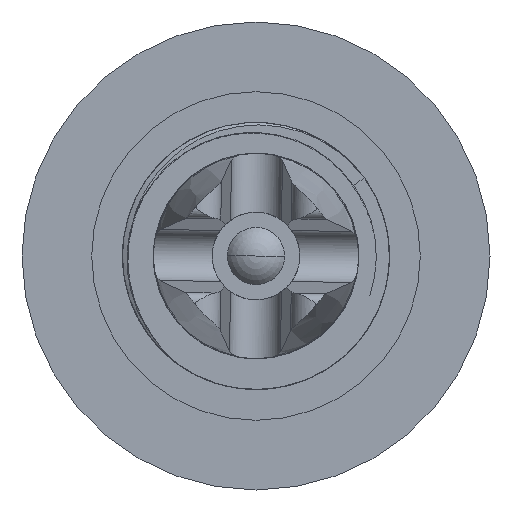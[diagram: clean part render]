
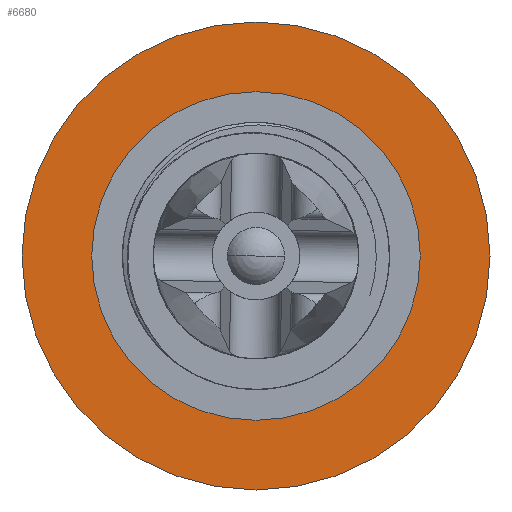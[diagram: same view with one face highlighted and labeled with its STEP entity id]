
A CAD part, front view. The second image highlights one B-rep face of the part: STEP entity #6680.
In plain terms, the highlighted planar face has unit normal (0, -1, 0).
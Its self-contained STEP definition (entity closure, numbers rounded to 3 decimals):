
#1682=CARTESIAN_POINT('',(0.,0.,0.));
#1683=DIRECTION('',(0.,-1.,0.));
#1684=DIRECTION('',(0.,0.,1.));
#1685=AXIS2_PLACEMENT_3D('',#1682,#1683,#1684);
#1687=CARTESIAN_POINT('',(0.,0.,0.));
#1688=DIRECTION('',(0.,1.,0.));
#1689=DIRECTION('',(0.,0.,1.));
#1690=AXIS2_PLACEMENT_3D('',#1687,#1688,#1689);
#1692=CARTESIAN_POINT('',(0.,0.,0.));
#1693=DIRECTION('',(0.,-1.,0.));
#1694=DIRECTION('',(0.,0.,-1.));
#1695=AXIS2_PLACEMENT_3D('',#1692,#1693,#1694);
#1697=CARTESIAN_POINT('',(0.,0.,0.));
#1698=DIRECTION('',(0.,-1.,0.));
#1699=DIRECTION('',(0.,0.,1.));
#1700=AXIS2_PLACEMENT_3D('',#1697,#1698,#1699);
#4938=CARTESIAN_POINT('',(0.,0.,22.785));
#4939=VERTEX_POINT('',#4938);
#4948=CARTESIAN_POINT('',(0.,0.,-22.785));
#4949=VERTEX_POINT('',#4948);
#4954=CARTESIAN_POINT('',(0.,0.,-16.));
#4955=CARTESIAN_POINT('',(0.,0.,16.));
#4956=VERTEX_POINT('',#4954);
#4957=VERTEX_POINT('',#4955);
#6665=CARTESIAN_POINT('',(0.,0.,0.));
#6666=DIRECTION('',(0.,1.,0.));
#6667=DIRECTION('',(0.,0.,-1.));
#6668=AXIS2_PLACEMENT_3D('',#6665,#6666,#6667);
#6669=PLANE('',#6668);
#6670=ORIENTED_EDGE('',*,*,#6644,.F.);
#6671=ORIENTED_EDGE('',*,*,#6660,.T.);
#6672=EDGE_LOOP('',(#6670,#6671));
#6673=FACE_OUTER_BOUND('',#6672,.F.);
#6675=ORIENTED_EDGE('',*,*,#6674,.T.);
#6677=ORIENTED_EDGE('',*,*,#6676,.T.);
#6678=EDGE_LOOP('',(#6675,#6677));
#6679=FACE_BOUND('',#6678,.F.);
#6680=ADVANCED_FACE('',(#6673,#6679),#6669,.F.);
#1686=CIRCLE('',#1685,22.785);
#1691=CIRCLE('',#1690,22.785);
#1696=CIRCLE('',#1695,16.);
#1701=CIRCLE('',#1700,16.);
#6644=EDGE_CURVE('',#4939,#4949,#1686,.T.);
#6660=EDGE_CURVE('',#4939,#4949,#1691,.T.);
#6674=EDGE_CURVE('',#4956,#4957,#1696,.T.);
#6676=EDGE_CURVE('',#4957,#4956,#1701,.T.);
